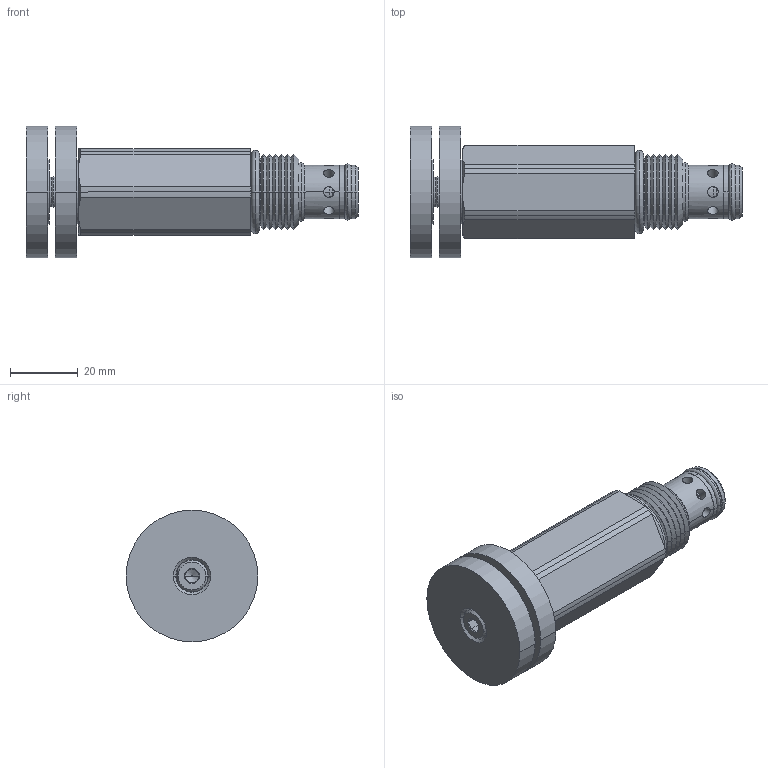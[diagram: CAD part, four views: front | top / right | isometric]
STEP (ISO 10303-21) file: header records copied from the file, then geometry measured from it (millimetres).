
FILE_DESCRIPTION((''),'2;1');
FILE_NAME('U:\Solid model CD\Solid model full\Mechanical\STEP\DERWP0K-3D Full.stp','2008-07-29T09:03:28',('Dan'),(''),'Autodesk Inventor 9','Autodesk Inventor 9','');
FILE_SCHEMA(('AUTOMOTIVE_DESIGN { 1 0 10303 214 1 1 1 1 }'));
Length unit declared in the file: inch
Products named in the file (7): DERWP0K-3D Full; DERWP0K-3D Full1; DERWP0K-3D Full2; DERWP0K-3D Full3; DERWP0K-3D Full4; DERWP0K-3D Full5; DERWP0K-3D Full6
Assembly tree (6 placements, depth 2):
  DERWP0K-3D Full
    DERWP0K-3D Full1
    DERWP0K-3D Full2
    DERWP0K-3D Full3
    DERWP0K-3D Full4
    DERWP0K-3D Full5
    DERWP0K-3D Full6
Bounding box: 97.99 x 38.86 x 38.86 mm (x, y, z)
Volume: 51149.4 mm3; surface area: 16560 mm2
Topology: 6 solids, 6 shells, 248 faces, 561 edges, 335 vertices
Faces by surface type: cone 116, cylinder 74, plane 44, bspline 10, torus 4
Entity records: 7773 total; most frequent: CARTESIAN_POINT 2055, DIRECTION 1233, ORIENTED_EDGE 1122, EDGE_CURVE 561, AXIS2_PLACEMENT_3D 513, VERTEX_POINT 335, EDGE_LOOP 284, CIRCLE 262
